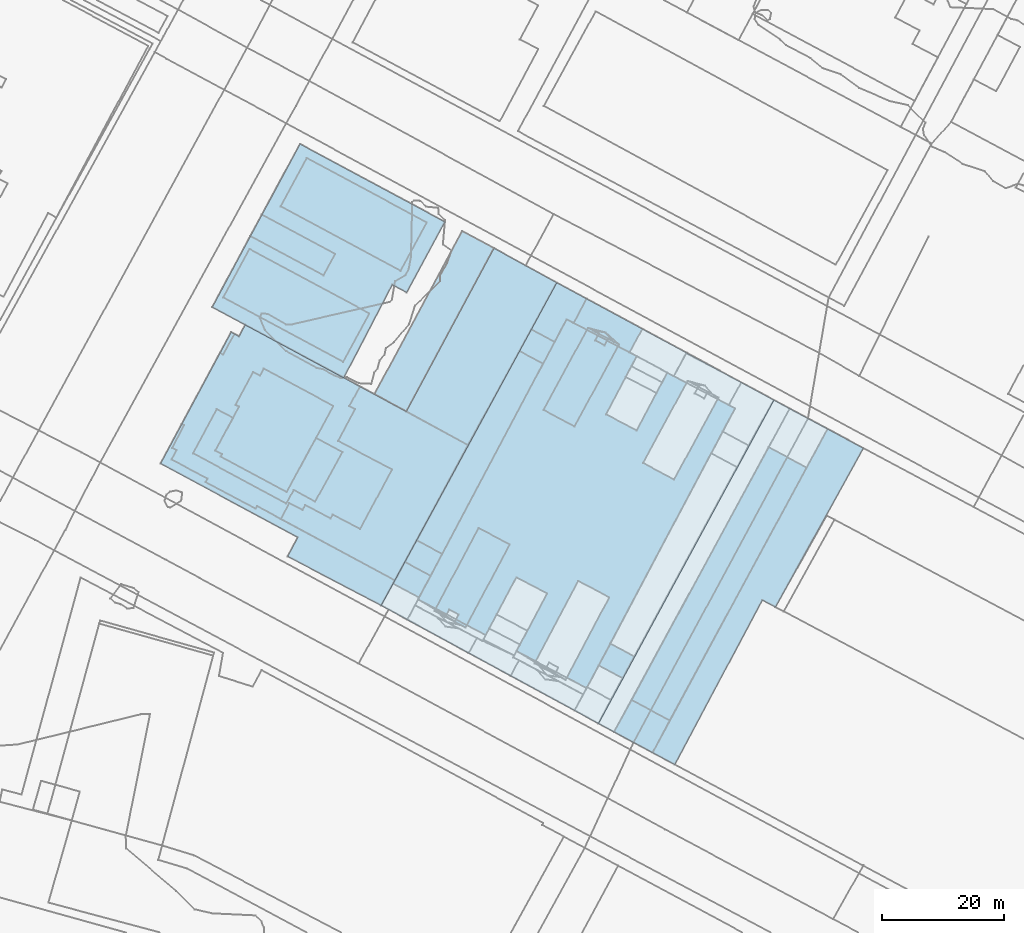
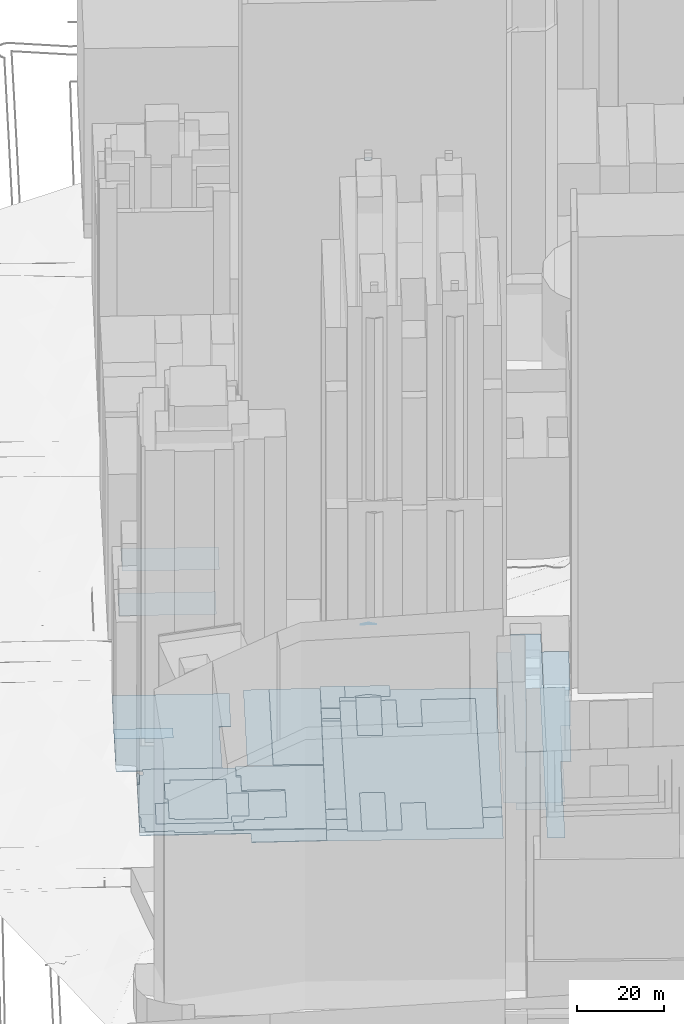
# Not in any storey, part 4 of 80: 31 footings.
"""IFC4 building model written with IfcOpenShell, lengths in metres."""

from ifc_helpers import new_model, si_unit, frame, origin_with_axes, place, context, subcontext, project, spatial, polygons, element, save


model = new_model("IFC4")

# Units and contexts
model_context = context("Model", 3, precision=1e-05, world=origin_with_axes())
body_context = subcontext(model_context, "Body", "Model", "MODEL_VIEW")
ifc_project = project(units=[si_unit("AREAUNIT", "SQUARE_METRE"), si_unit("LENGTHUNIT", "METRE")], contexts=[model_context])

# Sites, building
site_1_placement = place(None, origin_with_axes())
site_1 = spatial("IfcSite", under=ifc_project, at=site_1_placement, Name="Topoexport Site")
site_2_placement = place(site_1_placement, origin_with_axes())
site_2 = spatial("IfcSite", under=site_1, at=site_2_placement, Name="TPX_BATIMENTS")
building_1_placement = place(site_2_placement, frame((117.977917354, 107.1295738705, 28.6103156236), z_axis=(0.0, 0.0, 1.0), x_axis=(1.0, 0.0, 0.0)))
building_1 = spatial("IfcBuilding", under=site_2, at=building_1_placement, Name="Batiment 27", CompositionType="ELEMENT")

# Footing
footing_1_placement = place(None, frame((117.977917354, 107.1295738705, 28.6103156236), z_axis=(0.0, 0.0, 1.0), x_axis=(1.0, 0.0, 0.0)))
element("IfcFooting", 1, at=footing_1_placement, inside=building_1, Name="Sol 0", context=body_context, shape_type="Tessellation", body=[
    polygons([(0.0, 0.0, 0.0), (6.3201951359, -3.4126857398, 0.0), (9.1372634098, 1.8825086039, 0.0), (2.9022495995, 5.2295679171, 0.0)], [[[2, 1, 4]], [[4, 3, 2]]]),
])

# Building
building_2_placement = place(site_2_placement, frame((115.4875749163, 118.0363623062, 20.7911243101), z_axis=(0.0, 0.0, 1.0), x_axis=(1.0, 0.0, 0.0)))
building_2 = spatial("IfcBuilding", under=site_2, at=building_2_placement, Name="Batiment 35", CompositionType="ELEMENT")

# Footing
footing_2_placement = place(None, frame((115.4875749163, 118.0363623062, 20.7911243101), z_axis=(0.0, 0.0, 1.0), x_axis=(1.0, 0.0, 0.0)))
element("IfcFooting", 2, at=footing_2_placement, inside=building_2, Name="Sol 0", context=body_context, shape_type="Tessellation", body=[
    polygons([(0.0, 0.0, 0.0), (3.8991819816, -2.1085420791, 0.0), (5.8246692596, 1.4554440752, 0.0), (1.8915978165, 3.5746936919, 0.0)], [[[2, 1, 4]], [[4, 3, 2]]]),
])

# Building
building_3_placement = place(site_2_placement, frame((124.2981124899, 103.7168881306, 20.5602683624), z_axis=(0.0, 0.0, 1.0), x_axis=(1.0, 0.0, 0.0)))
building_3 = spatial("IfcBuilding", under=site_2, at=building_3_placement, Name="Batiment 43", CompositionType="ELEMENT")

# Footing
footing_3_placement = place(None, frame((124.2981124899, 103.7168881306, 20.5602683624), z_axis=(0.0, 0.0, 1.0), x_axis=(1.0, 0.0, 0.0)))
element("IfcFooting", 3, at=footing_3_placement, inside=building_3, Name="Sol 0", context=body_context, shape_type="Tessellation", body=[
    polygons([(0.0, 0.0, 0.0), (3.6522260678, -1.9226684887, 0.0), (18.0018064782, 25.0559943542, 0.0), (20.1510385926, 23.8930274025, 0.0), (34.5701681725, 49.9621498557, 0.0), (28.6922531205, 53.0912869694, 0.0)], [[[2, 1, 6]], [[5, 4, 3]], [[3, 2, 6]], [[6, 5, 3]]]),
])

# Building
building_4_placement = place(site_2_placement, frame((115.4207049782, 108.532058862, 30.5602683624), z_axis=(0.0, 0.0, 1.0), x_axis=(1.0, 0.0, 0.0)))
building_4 = spatial("IfcBuilding", under=site_2, at=building_4_placement, Name="Batiment 47", CompositionType="ELEMENT")

# Footing
footing_4_placement = place(None, frame((115.4207049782, 108.532058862, 30.5602683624), z_axis=(0.0, 0.0, 1.0), x_axis=(1.0, 0.0, 0.0)))
element("IfcFooting", 4, at=footing_4_placement, inside=building_4, Name="Sol 0", context=body_context, shape_type="Tessellation", body=[
    polygons([(0.0, 0.0, 0.0), (12.5296335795, -6.7378392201, 0.0), (26.8792139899, 20.2408236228, 0.0), (29.0284461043, 19.0778566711, 0.0), (43.4475756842, 45.1469791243, 0.0), (28.7687753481, 53.0477319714, 0.0)], [[[2, 1, 6]], [[5, 4, 3]], [[3, 2, 6]], [[6, 5, 3]]]),
])

# Building
building_5_placement = place(site_2_placement, frame((120.8801669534, 112.3591417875, 40.6481645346), z_axis=(0.0, 0.0, 1.0), x_axis=(1.0, 0.0, 0.0)))
building_5 = spatial("IfcBuilding", under=site_2, at=building_5_placement, Name="Batiment 48", CompositionType="ELEMENT")

# Footing
footing_5_placement = place(None, frame((120.8801669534, 112.3591417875, 40.6481645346), z_axis=(0.0, 0.0, 1.0), x_axis=(1.0, 0.0, 0.0)))
element("IfcFooting", 5, at=footing_5_placement, inside=building_5, Name="Sol 0", context=body_context, shape_type="Tessellation", body=[
    polygons([(0.0, 0.0, 0.0), (6.2350138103, -3.3470593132, 0.0), (28.6975847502, 38.1032951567, 0.0), (22.4624654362, 41.461436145, 0.0)], [[[2, 1, 4]], [[4, 3, 2]]]),
])

# Building
building_6_placement = place(site_2_placement, frame((85.8586663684, 128.8500079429, 20.7906594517), z_axis=(0.0, 0.0, 1.0), x_axis=(1.0, 0.0, 0.0)))
building_6 = spatial("IfcBuilding", under=site_2, at=building_6_placement, Name="Batiment 50", CompositionType="ELEMENT")

# Footing
footing_6_placement = place(None, frame((85.8586663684, 128.8500079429, 20.7906594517), z_axis=(0.0, 0.0, 1.0), x_axis=(1.0, 0.0, 0.0)))
element("IfcFooting", 6, at=footing_6_placement, inside=building_6, Name="Sol 0", context=body_context, shape_type="Tessellation", body=[
    polygons([(0.0, 0.0, 0.0), (11.1010060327, -5.844095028, 0.0), (16.1233334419, 3.6400451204, 0.0), (21.1599686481, 0.9895951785, 0.0), (16.1375167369, -8.4834476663, 0.0), (27.6547095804, -14.544729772, 0.0), (51.973663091, 31.3347461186, 0.0), (40.8642373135, 37.1786817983, 0.0), (35.8417076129, 27.7167250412, 0.0), (30.8135250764, 30.3672629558, 0.0), (35.8607355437, 39.8850142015, 0.0), (24.3521878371, 45.9352801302, 0.0)], [[[2, 1, 12]], [[6, 5, 4]], [[8, 7, 6]], [[12, 11, 10]], [[3, 2, 12]], [[9, 8, 6]], [[3, 12, 10]], [[9, 6, 4]], [[3, 10, 9]], [[9, 4, 3]]]),
])

# Building
building_7_placement = place(site_2_placement, frame((79.7834254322, 127.8912834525, 20.6975796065), z_axis=(0.0, 0.0, 1.0), x_axis=(1.0, 0.0, 0.0)))
building_7 = spatial("IfcBuilding", under=site_2, at=building_7_placement, Name="Batiment 51", CompositionType="ELEMENT")

# Footing
footing_7_placement = place(None, frame((79.7834254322, 127.8912834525, 20.6975796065), z_axis=(0.0, 0.0, 1.0), x_axis=(1.0, 0.0, 0.0)))
element("IfcFooting", 7, at=footing_7_placement, inside=building_7, Name="Sol 0", context=body_context, shape_type="Tessellation", body=[
    polygons([(0.0, 0.0, 0.0), (35.637279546, -19.3592245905, 0.0), (64.4060548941, 33.6885073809, 0.0), (28.8041259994, 52.9258761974, 0.0)], [[[2, 1, 4]], [[4, 3, 2]]]),
])

# Building
building_8_placement = place(site_2_placement, frame((106.4243167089, 159.930902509, 21.4761548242), z_axis=(0.0, 0.0, 1.0), x_axis=(1.0, 0.0, 0.0)))
building_8 = spatial("IfcBuilding", under=site_2, at=building_8_placement, Name="Batiment 52", CompositionType="ELEMENT")

# Footing
footing_8_placement = place(None, frame((106.4243167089, 159.930902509, 21.4761548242), z_axis=(0.0, 0.0, 1.0), x_axis=(1.0, 0.0, 0.0)))
element("IfcFooting", 8, at=footing_8_placement, inside=building_8, Name="Sol 0", context=body_context, shape_type="Tessellation", body=[
    polygons([(0.0, 0.0, 0.0), (5.0797232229, -2.7276618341, 0.0), (12.3774646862, 10.7131197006, 0.0), (7.2976187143, 13.4518772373, 0.0)], [[[2, 1, 4]], [[4, 3, 2]]]),
])

# Building
building_9_placement = place(site_2_placement, frame((102.4881306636, 169.5885518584, 21.7443464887), z_axis=(0.0, 0.0, 1.0), x_axis=(1.0, 0.0, 0.0)))
building_9 = spatial("IfcBuilding", under=site_2, at=building_9_placement, Name="Batiment 53", CompositionType="ELEMENT")

# Footing
footing_9_placement = place(None, frame((102.4881306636, 169.5885518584, 21.7443464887), z_axis=(0.0, 0.0, 1.0), x_axis=(1.0, 0.0, 0.0)))
element("IfcFooting", 9, at=footing_9_placement, inside=building_9, Name="Sol 0", context=body_context, shape_type="Tessellation", body=[
    polygons([(0.0, 0.0, 0.0), (3.865132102, -2.0867392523, 0.0), (5.7567207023, 1.4879525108, 0.0), (1.9256092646, 3.5528813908, 0.0)], [[[2, 1, 4]], [[4, 3, 2]]]),
])

# Building
building_10_placement = place(site_2_placement, frame((114.5459395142, 172.9371592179, 41.8919622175), z_axis=(0.0, 0.0, 1.0), x_axis=(1.0, 0.0, 0.0)))
building_10 = spatial("IfcBuilding", under=site_2, at=building_10_placement, Name="Batiment 54", CompositionType="ELEMENT")

# Footing
footing_10_placement = place(None, frame((114.5459395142, 172.9371592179, 41.8919622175), z_axis=(0.0, 0.0, 1.0), x_axis=(1.0, 0.0, 0.0)))
element("IfcFooting", 10, at=footing_10_placement, inside=building_10, Name="Sol 0", context=body_context, shape_type="Tessellation", body=[
    polygons([(0.0, 0.0, 0.0), (2.4804532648, -1.3367629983, 0.0), (3.4318372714, -1.8475169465, 0.0), (2.0464414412, -0.3092952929, 0.0)], [[[2, 1, 4]], [[4, 3, 2]]]),
])

# Building
building_11_placement = place(site_2_placement, frame((114.9105640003, 171.3426705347, 172.8731858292), z_axis=(0.0, 0.0, 1.0), x_axis=(1.0, 0.0, 0.0)))
building_11 = spatial("IfcBuilding", under=site_2, at=building_11_placement, Name="Batiment 55", CompositionType="ELEMENT")

# Footing
footing_11_placement = place(None, frame((114.9105640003, 171.3426705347, 172.8731858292), z_axis=(0.0, 0.0, 1.0), x_axis=(1.0, 0.0, 0.0)))
element("IfcFooting", 11, at=footing_11_placement, inside=building_11, Name="Sol 0", context=body_context, shape_type="Tessellation", body=[
    polygons([(0.0, 0.0, 0.0), (1.529069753, -0.8260088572, 0.0), (2.1158287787, 0.2577256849, 0.0), (0.5867591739, 1.0837344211, 0.0)], [[[2, 1, 4]], [[4, 3, 2]]]),
])

# Building
building_12_placement = place(site_2_placement, frame((111.3914170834, 174.1661728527, 21.831197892), z_axis=(0.0, 0.0, 1.0), x_axis=(1.0, 0.0, 0.0)))
building_12 = spatial("IfcBuilding", under=site_2, at=building_12_placement, Name="Batiment 67", CompositionType="ELEMENT")

# Footing
footing_12_placement = place(None, frame((111.3914170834, 174.1661728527, 21.831197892), z_axis=(0.0, 0.0, 1.0), x_axis=(1.0, 0.0, 0.0)))
element("IfcFooting", 12, at=footing_12_placement, inside=building_12, Name="Sol 0", context=body_context, shape_type="Tessellation", body=[
    polygons([(0.0, 0.0, 0.0), (2.1403869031, -1.1297715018, 0.0), (2.3305183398, -0.7833931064, 0.0), (5.2009638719, -1.5383089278, 0.0), (7.4103643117, -3.5221506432, 0.0), (7.2449094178, -3.8127312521, 0.0), (9.1388508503, -4.8010344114, 0.0), (11.2550985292, -0.9461725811, 0.0), (2.1061341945, 3.9990709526, 0.0)], [[[2, 1, 9]], [[7, 6, 5]], [[9, 8, 7]], [[3, 2, 9]], [[7, 5, 4]], [[4, 3, 9]], [[9, 7, 4]]]),
])

# Building
building_13_placement = place(site_2_placement, frame((104.4137399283, 173.1414332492, 21.8630474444), z_axis=(0.0, 0.0, 1.0), x_axis=(1.0, 0.0, 0.0)))
building_13 = spatial("IfcBuilding", under=site_2, at=building_13_placement, Name="Batiment 68", CompositionType="ELEMENT")

# Footing
footing_13_placement = place(None, frame((104.4137399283, 173.1414332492, 21.8630474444), z_axis=(0.0, 0.0, 1.0), x_axis=(1.0, 0.0, 0.0)))
element("IfcFooting", 13, at=footing_13_placement, inside=building_13, Name="Sol 0", context=body_context, shape_type="Tessellation", body=[
    polygons([(0.0, 0.0, 0.0), (3.8311114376, -2.06492888, 0.0), (5.7971142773, 1.6438548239, 0.0), (6.9776771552, 1.0247396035, 0.0), (9.0838113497, 5.0238105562, 0.0), (4.1738115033, 7.6757264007, 0.0)], [[[2, 1, 6]], [[5, 4, 3]], [[3, 2, 6]], [[6, 5, 3]]]),
])

# Building
building_14_placement = place(site_2_placement, frame((78.7061684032, 162.506692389, 21.2045848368), z_axis=(0.0, 0.0, 1.0), x_axis=(1.0, 0.0, 0.0)))
building_14 = spatial("IfcBuilding", under=site_2, at=building_14_placement, Name="Batiment 173", CompositionType="ELEMENT")

# Footing
footing_14_placement = place(None, frame((78.7061684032, 162.506692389, 21.2045848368), z_axis=(0.0, 0.0, 1.0), x_axis=(1.0, 0.0, 0.0)))
element("IfcFooting", 14, at=footing_14_placement, inside=building_14, Name="Sol 0", context=body_context, shape_type="Tessellation", body=[
    polygons([(0.0, 0.0, 0.0), (5.2156594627, -2.803817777, 0.0), (19.5931770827, 23.953040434, 0.0), (14.377530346, 26.7568479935, 0.0)], [[[2, 1, 4]], [[4, 3, 2]]]),
])

# Building
building_15_placement = place(site_2_placement, frame((53.9063589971, 178.3836490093, 62.2466982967), z_axis=(0.0, 0.0, 1.0), x_axis=(1.0, 0.0, 0.0)))
building_15 = spatial("IfcBuilding", under=site_2, at=building_15_placement, Name="Batiment 174", CompositionType="ELEMENT")

# Footing
footing_15_placement = place(None, frame((53.9063589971, 178.3836490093, 62.2466982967), z_axis=(0.0, 0.0, 1.0), x_axis=(1.0, 0.0, 0.0)))
element("IfcFooting", 15, at=footing_15_placement, inside=building_15, Name="Sol 0", context=body_context, shape_type="Tessellation", body=[
    polygons([(0.0, 0.0, 0.0), (19.6563100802, -10.5631889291, 0.0), (23.9622377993, -2.6305951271, 0.0), (4.2973726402, 7.9435850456, 0.0)], [[[2, 1, 4]], [[4, 3, 2]]]),
])

# Building
building_16_placement = place(site_2_placement, frame((52.1098467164, 176.7973780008, 20.2692366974), z_axis=(0.0, 0.0, 1.0), x_axis=(1.0, 0.0, 0.0)))
building_16 = spatial("IfcBuilding", under=site_2, at=building_16_placement, Name="Batiment 175", CompositionType="ELEMENT")

# Footing
footing_16_placement = place(None, frame((52.1098467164, 176.7973780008, 20.2692366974), z_axis=(0.0, 0.0, 1.0), x_axis=(1.0, 0.0, 0.0)))
element("IfcFooting", 16, at=footing_16_placement, inside=building_16, Name="Sol 0", context=body_context, shape_type="Tessellation", body=[
    polygons([(0.0, 0.0, 0.0), (21.5590744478, -11.5847130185, 0.0), (29.5109655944, 3.6843947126, 0.0), (31.872471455, 2.412853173, 0.0), (38.1367223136, 13.9875293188, 0.0), (14.3775952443, 26.7567958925, 0.0)], [[[2, 1, 6]], [[5, 4, 3]], [[3, 2, 6]], [[6, 5, 3]]]),
])

# Building
building_17_placement = place(site_2_placement, frame((52.1098467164, 176.7973780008, 20.0588630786), z_axis=(0.0, 0.0, 1.0), x_axis=(1.0, 0.0, 0.0)))
building_17 = spatial("IfcBuilding", under=site_2, at=building_17_placement, Name="Batiment 176", CompositionType="ELEMENT")

# Footing
footing_17_placement = place(None, frame((52.1098467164, 176.7973780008, 20.0588630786), z_axis=(0.0, 0.0, 1.0), x_axis=(1.0, 0.0, 0.0)))
element("IfcFooting", 17, at=footing_17_placement, inside=building_17, Name="Sol 0", context=body_context, shape_type="Tessellation", body=[
    polygons([(0.0, 0.0, 0.0), (21.5590744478, -11.5847130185, 0.0), (29.5109655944, 3.6843947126, 0.0), (31.872471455, 2.412853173, 0.0), (38.1367223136, 13.9875293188, 0.0), (14.3775952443, 26.7567958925, 0.0), (8.1303289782, 15.1712352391, 0.0), (20.1415581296, 8.715946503, 0.0), (18.2324312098, 5.1965718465, 0.0), (6.2211982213, 11.6518637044, 0.0)], [[[2, 1, 10]], [[5, 4, 3]], [[7, 6, 5]], [[2, 10, 9]], [[7, 5, 3]], [[2, 9, 8]], [[8, 7, 3]], [[3, 2, 8]]]),
])

# Building
building_18_placement = place(site_2_placement, frame((63.3141408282, 193.3143650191, 62.430841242), z_axis=(0.0, 0.0, 1.0), x_axis=(1.0, 0.0, 0.0)))
building_18 = spatial("IfcBuilding", under=site_2, at=building_18_placement, Name="Batiment 177", CompositionType="ELEMENT")

# Footing
footing_18_placement = place(None, frame((63.3141408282, 193.3143650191, 62.430841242), z_axis=(0.0, 0.0, 1.0), x_axis=(1.0, 0.0, 0.0)))
element("IfcFooting", 18, at=footing_18_placement, inside=building_18, Name="Sol 0", context=body_context, shape_type="Tessellation", body=[
    polygons([(0.0, 0.0, 0.0), (19.6564142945, -10.5742645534, 0.0), (23.9623227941, -2.6416648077, 0.0), (4.2974822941, 7.9324902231, 0.0)], [[[2, 1, 4]], [[4, 3, 2]]]),
])

# Building
building_19_placement = place(site_2_placement, frame((58.3310449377, 188.4492417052, 20.0588630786), z_axis=(0.0, 0.0, 1.0), x_axis=(1.0, 0.0, 0.0)))
building_19 = spatial("IfcBuilding", under=site_2, at=building_19_placement, Name="Batiment 178", CompositionType="ELEMENT")

# Footing
footing_19_placement = place(None, frame((58.3310449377, 188.4492417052, 20.0588630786), z_axis=(0.0, 0.0, 1.0), x_axis=(1.0, 0.0, 0.0)))
element("IfcFooting", 19, at=footing_19_placement, inside=building_19, Name="Sol 0", context=body_context, shape_type="Tessellation", body=[
    polygons([(0.0, 0.0, 0.0), (12.0112329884, -6.4552918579, 0.0), (13.9203599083, -2.9359172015, 0.0), (1.9091307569, 3.5193715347, 0.0)], [[[2, 1, 4]], [[4, 3, 2]]]),
])

# Building
building_20_placement = place(site_2_placement, frame((53.3786072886, 169.3069851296, 21.038693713), z_axis=(0.0, 0.0, 1.0), x_axis=(1.0, 0.0, 0.0)))
building_20 = spatial("IfcBuilding", under=site_2, at=building_20_placement, Name="Batiment 179", CompositionType="ELEMENT")

# Footing
footing_20_placement = place(None, frame((53.3786072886, 169.3069851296, 21.038693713), z_axis=(0.0, 0.0, 1.0), x_axis=(1.0, 0.0, 0.0)))
element("IfcFooting", 20, at=footing_20_placement, inside=building_20, Name="Sol 0", context=body_context, shape_type="Tessellation", body=[
    polygons([(0.0, 0.0, 0.0), (0.5353523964, -0.3046485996, 0.0), (2.3698157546, 3.1028322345, 0.0), (1.8261519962, 3.3962819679, 0.0)], [[[2, 1, 4]], [[4, 3, 2]]]),
])

# Building
building_21_placement = place(site_2_placement, frame((48.9439736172, 152.8241808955, 21.1794819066), z_axis=(0.0, 0.0, 1.0), x_axis=(1.0, 0.0, 0.0)))
building_21 = spatial("IfcBuilding", under=site_2, at=building_21_placement, Name="Batiment 180", CompositionType="ELEMENT")

# Footing
footing_21_placement = place(None, frame((48.9439736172, 152.8241808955, 21.1794819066), z_axis=(0.0, 0.0, 1.0), x_axis=(1.0, 0.0, 0.0)))
element("IfcFooting", 21, at=footing_21_placement, inside=building_21, Name="Sol 0", context=body_context, shape_type="Tessellation", body=[
    polygons([(0.0, 0.0, 0.0), (15.3072963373, -8.2378124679, 0.0), (16.539143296, -6.0030615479, 0.0), (20.031093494, -7.9387212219, 0.0), (24.5122266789, 0.1735393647, 0.0), (20.1715989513, 2.4990246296, 0.0), (15.3699209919, -6.3608053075, 0.0), (4.5649061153, -0.5576359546, 0.0), (4.788158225, -0.1553634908, 0.0), (3.6753780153, 0.4423431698, 0.0), (6.5761073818, 5.8050944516, 0.0), (3.9173823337, 7.2286264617, 0.0)], [[[5, 4, 3]], [[7, 6, 5]], [[10, 9, 8]], [[12, 11, 10]], [[7, 5, 3]], [[1, 12, 10]], [[7, 3, 2]], [[1, 10, 8]], [[7, 2, 1]], [[1, 8, 7]]]),
])

# Building
building_22_placement = place(site_2_placement, frame((52.6193516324, 153.2665240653, 20.9538410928), z_axis=(0.0, 0.0, 1.0), x_axis=(1.0, 0.0, 0.0)))
building_22 = spatial("IfcBuilding", under=site_2, at=building_22_placement, Name="Batiment 181", CompositionType="ELEMENT")

# Footing
footing_22_placement = place(None, frame((52.6193516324, 153.2665240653, 20.9538410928), z_axis=(0.0, 0.0, 1.0), x_axis=(1.0, 0.0, 0.0)))
element("IfcFooting", 22, at=footing_22_placement, inside=building_22, Name="Sol 0", context=body_context, shape_type="Tessellation", body=[
    polygons([(0.0, 0.0, 0.0), (1.1127802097, -0.5977066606, 0.0), (0.8895281, -0.9999791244, 0.0), (11.6945429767, -6.8031484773, 0.0), (19.3390148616, 7.3188466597, 0.0), (7.9393204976, 13.448168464, 0.0), (7.3113819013, 12.2751425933, 0.0), (6.1901626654, 12.8727503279, 0.0), (3.2894387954, 7.5099976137, 0.0), (3.8925728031, 7.1839315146, 0.0)], [[[2, 1, 10]], [[4, 3, 2]], [[6, 5, 4]], [[9, 8, 7]], [[4, 2, 10]], [[7, 6, 4]], [[10, 9, 7]], [[7, 4, 10]]]),
])

# Building
building_23_placement = place(site_2_placement, frame((45.4357916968, 151.795361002, 20.6875388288), z_axis=(0.0, 0.0, 1.0), x_axis=(1.0, 0.0, 0.0)))
building_23 = spatial("IfcBuilding", under=site_2, at=building_23_placement, Name="Batiment 182", CompositionType="ELEMENT")

# Footing
footing_23_placement = place(None, frame((45.4357916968, 151.795361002, 20.6875388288), z_axis=(0.0, 0.0, 1.0), x_axis=(1.0, 0.0, 0.0)))
element("IfcFooting", 23, at=footing_23_placement, inside=building_23, Name="Sol 0", context=body_context, shape_type="Tessellation", body=[
    polygons([(0.0, 0.0, 0.0), (5.9203309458, -3.1509334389, 0.0), (5.6146072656, -3.720696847, 0.0), (13.7856998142, -8.0556430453, 0.0), (14.0088230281, -7.6422696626, 0.0), (17.9245978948, -9.7284433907, 0.0), (19.3210010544, -7.125408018, 0.0), (21.4785274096, -8.2771984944, 0.0), (21.9247729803, -7.4504512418, 0.0), (26.0784283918, -9.6670859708, 0.0), (26.4255795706, -9.0302271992, 0.0), (30.9185296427, -11.3872491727, 0.0), (36.1572274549, -1.6341566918, 0.0), (27.3067714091, 3.0481492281, 0.0), (30.0995650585, 8.2542240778, 0.0), (29.1483116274, 8.7538826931, 0.0), (30.9087376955, 11.9939753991, 0.0), (12.0765422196, 22.100429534, 0.0), (11.0601529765, 20.2123506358, 0.0), (10.3126313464, 20.6144563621, 0.0), (8.4781679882, 17.206975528, 0.0), (7.9428155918, 17.5116241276, 0.0), (1.679905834, 5.8148724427, 0.0), (2.0700969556, 5.6528677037, 0.0), (0.1044447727, 1.9107990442, 0.0), (0.8347003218, 1.5417986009, 0.0)], [[[2, 1, 26]], [[4, 3, 2]], [[7, 6, 5]], [[9, 8, 7]], [[11, 10, 9]], [[13, 12, 11]], [[16, 15, 14]], [[18, 17, 16]], [[21, 20, 19]], [[23, 22, 21]], [[26, 25, 24]], [[4, 2, 26]], [[13, 11, 9]], [[18, 16, 14]], [[23, 21, 19]], [[4, 26, 24]], [[13, 9, 7]], [[19, 18, 14]], [[24, 23, 19]], [[5, 4, 24]], [[13, 7, 5]], [[24, 19, 14]], [[13, 5, 24]], [[24, 14, 13]]]),
])

# Building
building_24_placement = place(site_2_placement, frame((43.6198790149, 151.1525582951, 20.6875388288), z_axis=(0.0, 0.0, 1.0), x_axis=(1.0, 0.0, 0.0)))
building_24 = spatial("IfcBuilding", under=site_2, at=building_24_placement, Name="Batiment 183", CompositionType="ELEMENT")

# Footing
footing_24_placement = place(None, frame((43.6198790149, 151.1525582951, 20.6875388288), z_axis=(0.0, 0.0, 1.0), x_axis=(1.0, 0.0, 0.0)))
element("IfcFooting", 24, at=footing_24_placement, inside=building_24, Name="Sol 0", context=body_context, shape_type="Tessellation", body=[
    polygons([(0.0, 0.0, 0.0), (22.5189582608, -12.0954008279, 0.0), (20.8331965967, -15.2236014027, 0.0), (36.1635464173, -23.2612748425, 0.0), (64.9676724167, 29.6646013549, 0.0), (54.679466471, 35.307174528, 0.0), (40.301948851, 8.550316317, 0.0), (13.8924549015, 22.7432322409, 0.0), (12.8760656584, 20.8551533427, 0.0), (11.5848802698, 21.5507088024, 0.0)], [[[2, 1, 10]], [[4, 3, 2]], [[6, 5, 4]], [[9, 8, 7]], [[2, 10, 9]], [[7, 6, 4]], [[2, 9, 7]], [[7, 4, 2]]]),
])

# Building
building_25_placement = place(site_2_placement, frame((83.9218278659, 159.7028746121, 21.3185794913), z_axis=(0.0, 0.0, 1.0), x_axis=(1.0, 0.0, 0.0)))
building_25 = spatial("IfcBuilding", under=site_2, at=building_25_placement, Name="Batiment 184", CompositionType="ELEMENT")

# Footing
footing_25_placement = place(None, frame((83.9218278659, 159.7028746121, 21.3185794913), z_axis=(0.0, 0.0, 1.0), x_axis=(1.0, 0.0, 0.0)))
element("IfcFooting", 25, at=footing_25_placement, inside=building_25, Name="Sol 0", context=body_context, shape_type="Tessellation", body=[
    polygons([(0.0, 0.0, 0.0), (10.1183913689, -5.5557477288, 0.0), (24.6657235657, 21.1142850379, 0.0), (14.37751762, 26.756858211, 0.0)], [[[2, 1, 4]], [[4, 3, 2]]]),
])

# Building
building_26_placement = place(site_2_placement, frame((85.6362783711, 138.5507919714, 21.0890233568), z_axis=(0.0, 0.0, 1.0), x_axis=(1.0, 0.0, 0.0)))
building_26 = spatial("IfcBuilding", under=site_2, at=building_26_placement, Name="Batiment 185", CompositionType="ELEMENT")

# Footing
footing_26_placement = place(None, frame((85.6362783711, 138.5507919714, 21.0890233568), z_axis=(0.0, 0.0, 1.0), x_axis=(1.0, 0.0, 0.0)))
element("IfcFooting", 26, at=footing_26_placement, inside=building_26, Name="Sol 0", context=body_context, shape_type="Tessellation", body=[
    polygons([(0.0, 0.0, 0.0), (4.1792434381, -2.2385320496, 0.0), (20.7169843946, 28.9510206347, 0.0), (16.8518522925, 31.0377598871, 0.0)], [[[2, 1, 4]], [[4, 3, 2]]]),
])

# Building
building_27_placement = place(site_2_placement, frame((63.3603895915, 142.0669176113, 21.031144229), z_axis=(0.0, 0.0, 1.0), x_axis=(1.0, 0.0, 0.0)))
building_27 = spatial("IfcBuilding", under=site_2, at=building_27_placement, Name="Batiment 186", CompositionType="ELEMENT")

# Footing
footing_27_placement = place(None, frame((63.3603895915, 142.0669176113, 21.031144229), z_axis=(0.0, 0.0, 1.0), x_axis=(1.0, 0.0, 0.0)))
element("IfcFooting", 27, at=footing_27_placement, inside=building_27, Name="Sol 0", context=body_context, shape_type="Tessellation", body=[
    polygons([(0.0, 0.0, 0.0), (18.6972361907, -10.1080082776, 0.0), (30.6798296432, 12.080209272, 0.0), (12.9841398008, 21.7224187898, 0.0), (11.2237137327, 18.4823260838, 0.0), (12.1749671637, 17.9826674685, 0.0), (9.3821735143, 12.7765926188, 0.0), (18.2326295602, 8.0942866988, 0.0), (12.993931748, -1.658805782, 0.0), (8.5009816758, 0.6982161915, 0.0), (8.1538304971, 0.0613574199, 0.0), (4.0001750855, 2.2779921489, 0.0), (3.5539295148, 1.4512448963, 0.0), (1.3964031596, 2.6030353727, 0.0)], [[[2, 1, 14]], [[5, 4, 3]], [[8, 7, 6]], [[11, 10, 9]], [[13, 12, 11]], [[2, 14, 13]], [[6, 5, 3]], [[13, 11, 9]], [[8, 6, 3]], [[2, 13, 9]], [[8, 3, 2]], [[2, 9, 8]]]),
])

# Building
building_28_placement = place(site_2_placement, frame((88.5482734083, 126.9494492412, 20.9399890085), z_axis=(0.0, 0.0, 1.0), x_axis=(1.0, 0.0, 0.0)))
building_28 = spatial("IfcBuilding", under=site_2, at=building_28_placement, Name="Batiment 187", CompositionType="ELEMENT")

# Footing
footing_28_placement = place(None, frame((88.5482734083, 126.9494492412, 20.9399890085), z_axis=(0.0, 0.0, 1.0), x_axis=(1.0, 0.0, 0.0)))
element("IfcFooting", 28, at=footing_28_placement, inside=building_28, Name="Sol 0", context=body_context, shape_type="Tessellation", body=[
    polygons([(0.0, 0.0, 0.0), (5.0963614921, -2.7052766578, 0.0), (12.3328949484, 10.9235121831, 0.0), (7.2282283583, 13.617585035, 0.0)], [[[2, 1, 4]], [[4, 3, 2]]]),
])

# Building
building_29_placement = place(site_2_placement, frame((83.7106505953, 134.9979159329, 21.0569415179), z_axis=(0.0, 0.0, 1.0), x_axis=(1.0, 0.0, 0.0)))
building_29 = spatial("IfcBuilding", under=site_2, at=building_29_placement, Name="Batiment 192", CompositionType="ELEMENT")

# Footing
footing_29_placement = place(None, frame((83.7106505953, 134.9979159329, 21.0569415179), z_axis=(0.0, 0.0, 1.0), x_axis=(1.0, 0.0, 0.0)))
element("IfcFooting", 29, at=footing_29_placement, inside=building_29, Name="Sol 0", context=body_context, shape_type="Tessellation", body=[
    polygons([(0.0, 0.0, 0.0), (4.2049527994, -2.2715413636, 0.0), (6.1048712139, 1.3143439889, 0.0), (1.9256277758, 3.5528760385, 0.0)], [[[2, 1, 4]], [[4, 3, 2]]]),
])

# Building
building_30_placement = place(site_2_placement, frame((81.7767093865, 131.433841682, 21.0074778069), z_axis=(0.0, 0.0, 1.0), x_axis=(1.0, 0.0, 0.0)))
building_30 = spatial("IfcBuilding", under=site_2, at=building_30_placement, Name="Batiment 193", CompositionType="ELEMENT")

# Footing
footing_30_placement = place(None, frame((81.7767093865, 131.433841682, 21.0074778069), z_axis=(0.0, 0.0, 1.0), x_axis=(1.0, 0.0, 0.0)))
element("IfcFooting", 30, at=footing_30_placement, inside=building_30, Name="Sol 0", context=body_context, shape_type="Tessellation", body=[
    polygons([(0.0, 0.0, 0.0), (4.2388447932, -2.2822511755, 0.0), (6.1388940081, 1.2925328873, 0.0), (1.9339412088, 3.5640742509, 0.0)], [[[2, 1, 4]], [[4, 3, 2]]]),
])

# Building
building_31_placement = place(site_2_placement, frame((43.6198790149, 151.1525582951, 20.8515693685), z_axis=(0.0, 0.0, 1.0), x_axis=(1.0, 0.0, 0.0)))
building_31 = spatial("IfcBuilding", under=site_2, at=building_31_placement, Name="Batiment 195", CompositionType="ELEMENT")

# Footing
footing_31_placement = place(None, frame((43.6198790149, 151.1525582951, 20.8515693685), z_axis=(0.0, 0.0, 1.0), x_axis=(1.0, 0.0, 0.0)))
element("IfcFooting", 31, at=footing_31_placement, inside=building_31, Name="Sol 0", context=body_context, shape_type="Tessellation", body=[
    polygons([(0.0, 0.0, 0.0), (22.5189582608, -12.0954008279, 0.0), (20.8331965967, -15.2236014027, 0.0), (36.1635464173, -23.2612748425, 0.0), (38.4377467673, -19.1936489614, 0.0), (15.8247357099, -6.9994669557, 0.0), (15.6016124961, -7.4128403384, 0.0), (7.4305199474, -3.07789414, 0.0), (7.7362436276, -2.508130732, 0.0), (1.8159126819, 0.6428027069, 0.0), (2.6506130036, 2.1846013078, 0.0), (1.9203574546, 2.5536017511, 0.0), (3.8860096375, 6.2956704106, 0.0), (3.4958185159, 6.4576751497, 0.0)], [[[4, 3, 2]], [[7, 6, 5]], [[10, 9, 8]], [[12, 11, 10]], [[14, 13, 12]], [[5, 4, 2]], [[1, 14, 12]], [[5, 2, 1]], [[1, 12, 10]], [[7, 5, 1]], [[1, 10, 8]], [[8, 7, 1]]]),
])

save(model, "model.ifc")
